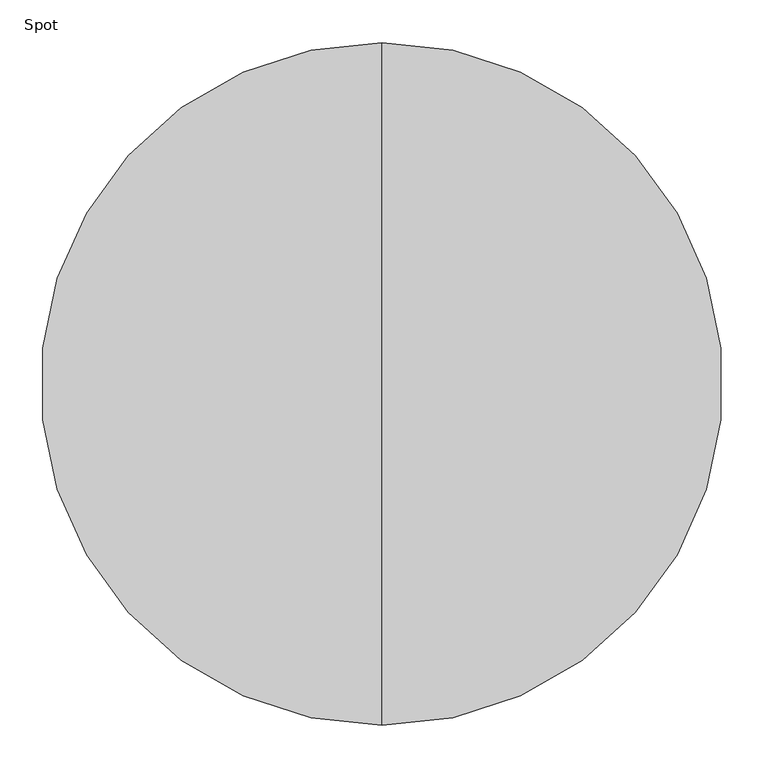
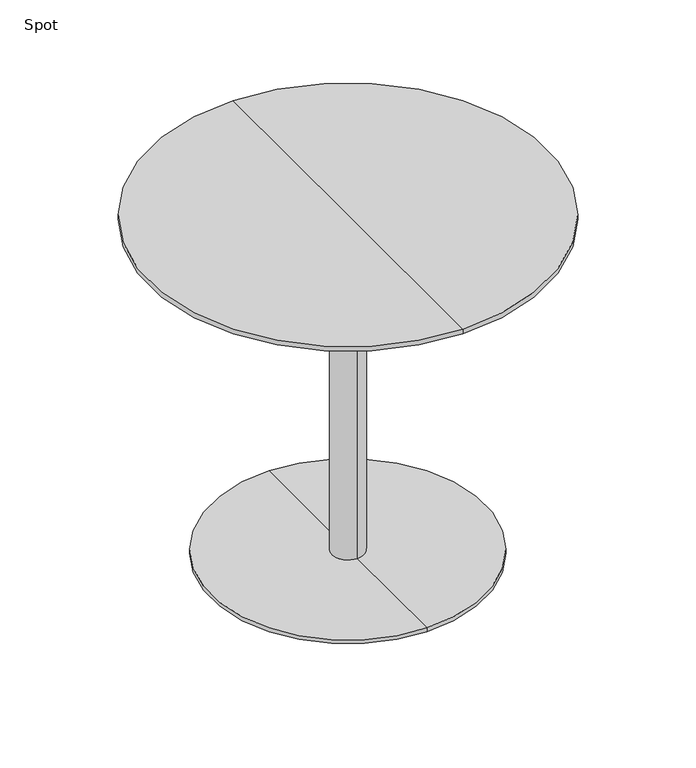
"""IFC4 building model written with IfcOpenShell, lengths in millimetres: furniture geometry, Spot : Bø80x72."""

from ifc_helpers import new_model, si_unit, frame, origin, place, context, project, spatial, polyline, circle_curve, source, transform, mapped, element, save
from ifc_brep_helpers import plane_surface, cylinder_surface, revolved_surface, advanced_brep


def spot_e74a4429(model_context):
    return source(origin(), model_context, "Body", "AdvancedBrep", [
        advanced_brep(
        [(0.0, -400.0, 720.0), (0.0, 400.0, 720.0), (0.0, 0.0, 720.0), (0.0, 400.0, 710.25), (0.0, -400.0, 710.25), (0.0, 0.0, 698.0), (0.0, -354.2823776, 698.0), (0.0, 354.2823776, 698.0)],
        [
            (0, 1, circle_curve(frame((0.0, 0.0, 720.0), z_axis=(0.0, 0.0, 1.0), x_axis=(0.0, -1.0, 0.0)), 400.0)),
            (1, 2),
            (2, 0),
            (3, 4, circle_curve(frame((0.0, 0.0, 710.25), z_axis=(0.0, 0.0, 1.0), x_axis=(0.0, -1.0, 0.0)), 400.0)),
            (4, 0),
            (0, 1, circle_curve(frame((0.0, 0.0, 720.0), z_axis=(0.0, 0.0, -1.0), x_axis=(0.0, -1.0, 0.0)), 400.0)),
            (1, 3),
            (5, 6),
            (6, 7, circle_curve(frame((0.0, 0.0, 698.0), z_axis=(0.0, 0.0, -1.0), x_axis=(0.0, -1.0, 0.0)), 354.2823776)),
            (7, 5),
            (7, 6, circle_curve(frame((0.0, 0.0, 698.0), z_axis=(0.0, 0.0, -1.0), x_axis=(0.0, -1.0, 0.0)), 354.2823776)),
            (4, 3, circle_curve(frame((0.0, 0.0, 710.25), z_axis=(0.0, 0.0, 1.0), x_axis=(0.0, -1.0, 0.0)), 400.0)),
            (6, 4),
            (3, 7),
        ],
        [
            plane_surface(frame((0.0, 0.0, 720.0), z_axis=(0.0, 0.0, 1.0), x_axis=(0.0, -1.0, 0.0))),
            cylinder_surface(frame((0.0, 0.0, 800.0), z_axis=(0.0, 0.0, -1.0), x_axis=(0.0, -1.0, 0.0)), 400.0),
            plane_surface(frame((0.0, 0.0, 698.0), z_axis=(0.0, 0.0, -1.0), x_axis=(0.0, -1.0, 0.0))),
            revolved_surface(polyline([(0.0, -400.0, 710.25), (0.0, -354.2823776, 698.0)]), (0.0, 0.0, 800.0), (0.0, 0.0, -1.0)),
        ],
        [
            (0, [[1, 2, 3]]),
            (1, [[4, 5, 6, 7]]),
            (2, [[8, 9, 10]]),
            (2, [[-10, 11, -8]]),
            (0, [[-6, -3, -2]]),
            (1, [[12, -7, -1, -5]]),
            (3, [[-9, 13, -4, 14]]),
            (3, [[-11, -14, -12, -13]]),
        ],
    ),
        advanced_brep(
        [(0.0, 32.0, 10.0), (0.0, -32.0, 10.0), (0.0, -32.0, 667.406916), (0.0, 32.0, 667.406916), (0.0, 275.0, 10.0), (0.0, -275.0, 10.0), (0.0, 275.0, 2.0), (0.0, -275.0, 2.0), (0.0, 0.0, 2.0), (0.0, 150.0, 698.0), (0.0, -150.0, 698.0), (0.0, 0.0, 698.0), (0.0, 150.0, 686.7213673), (0.0, -150.0, 686.7213673)],
        [
            (0, 1, circle_curve(frame((0.0, 0.0, 10.0), z_axis=(0.0, 0.0, 1.0), x_axis=(0.0, -1.0, 0.0)), 32.0)),
            (1, 2),
            (2, 3, circle_curve(frame((0.0, 0.0, 667.406916), z_axis=(0.0, 0.0, -1.0), x_axis=(0.0, -1.0, 0.0)), 32.0)),
            (3, 0),
            (1, 0, circle_curve(frame((0.0, 0.0, 10.0), z_axis=(0.0, 0.0, 1.0), x_axis=(0.0, -1.0, 0.0)), 32.0)),
            (3, 2, circle_curve(frame((0.0, 0.0, 667.406916), z_axis=(0.0, 0.0, -1.0), x_axis=(0.0, -1.0, 0.0)), 32.0)),
            (4, 5, circle_curve(frame((0.0, 0.0, 10.0), z_axis=(0.0, 0.0, 1.0), x_axis=(0.0, -1.0, 0.0)), 275.0)),
            (5, 1),
            (0, 4),
            (5, 4, circle_curve(frame((0.0, 0.0, 10.0), z_axis=(0.0, 0.0, 1.0), x_axis=(0.0, -1.0, 0.0)), 275.0)),
            (6, 7, circle_curve(frame((0.0, 0.0, 2.0), z_axis=(0.0, 0.0, 1.0), x_axis=(0.0, -1.0, 0.0)), 275.0)),
            (7, 5),
            (4, 6),
            (7, 6, circle_curve(frame((0.0, 0.0, 2.0), z_axis=(0.0, 0.0, 1.0), x_axis=(0.0, -1.0, 0.0)), 275.0)),
            (8, 7),
            (6, 8),
            (9, 10, circle_curve(frame((0.0, 0.0, 698.0), z_axis=(0.0, 0.0, 1.0), x_axis=(0.0, -1.0, 0.0)), 150.0)),
            (10, 11),
            (11, 9),
            (10, 9, circle_curve(frame((0.0, 0.0, 698.0), z_axis=(0.0, 0.0, 1.0), x_axis=(0.0, -1.0, 0.0)), 150.0)),
            (12, 13, circle_curve(frame((0.0, 0.0, 686.7213673), z_axis=(0.0, 0.0, 1.0), x_axis=(0.0, -1.0, 0.0)), 150.0)),
            (13, 10),
            (9, 12),
            (13, 12, circle_curve(frame((0.0, 0.0, 686.7213673), z_axis=(0.0, 0.0, 1.0), x_axis=(0.0, -1.0, 0.0)), 150.0)),
            (2, 13),
            (12, 3),
        ],
        [
            cylinder_surface(frame((0.0, 0.0, 1060.0), z_axis=(0.0, 0.0, -1.0), x_axis=(0.0, -1.0, 0.0)), 32.0),
            plane_surface(frame((0.0, 0.0, 10.0), z_axis=(0.0, 0.0, 1.0), x_axis=(0.0, -1.0, 0.0))),
            cylinder_surface(frame((0.0, 0.0, 1060.0), z_axis=(0.0, 0.0, -1.0), x_axis=(0.0, -1.0, 0.0)), 275.0),
            plane_surface(frame((0.0, 0.0, 2.0), z_axis=(0.0, 0.0, -1.0), x_axis=(0.0, -1.0, 0.0))),
            plane_surface(frame((0.0, 0.0, 698.0), z_axis=(0.0, 0.0, 1.0), x_axis=(0.0, -1.0, 0.0))),
            cylinder_surface(frame((0.0, 0.0, 1060.0), z_axis=(0.0, 0.0, -1.0), x_axis=(0.0, -1.0, 0.0)), 150.0),
            revolved_surface(polyline([(0.0, -150.0, 686.7213673), (0.0, -32.0, 667.406916)]), (0.0, 0.0, 1060.0), (0.0, 0.0, -1.0)),
        ],
        [
            (0, [[1, 2, 3, 4]]),
            (0, [[5, -4, 6, -2]]),
            (1, [[7, 8, -1, 9]]),
            (1, [[10, -9, -5, -8]]),
            (2, [[11, 12, -7, 13]]),
            (2, [[14, -13, -10, -12]]),
            (3, [[15, -11, 16]]),
            (3, [[-16, -14, -15]]),
            (4, [[17, 18, 19]]),
            (4, [[20, -19, -18]]),
            (5, [[21, 22, -17, 23]]),
            (5, [[24, -23, -20, -22]]),
            (6, [[-3, 25, -21, 26]]),
            (6, [[-6, -26, -24, -25]]),
        ],
    ),
    ])


if __name__ == "__main__":
    model = new_model("IFC4")
    model_context = context("Model", 3, world=origin())
    ifc_project = project(units=[si_unit("LENGTHUNIT", "METRE", prefix="MILLI")], contexts=[model_context])
    site = spatial("IfcSite", under=ifc_project)
    building = spatial("IfcBuilding", under=site)
    placement = place(None, origin())
    spot_shape = spot_e74a4429(model_context)
    element("IfcFurniture", 1, ObjectType="Spot : Bø80x72", at=placement, inside=building, context=model_context, shape_type="MappedRepresentation", body=[
        mapped(spot_shape, transform((0.0, 0.0, 0.0), x_axis=(1.0, 0.0, 0.0), y_axis=(0.0, 1.0, 0.0), z_axis=(0.0, 0.0, 1.0))),
    ])
    save(model, "model.ifc")
